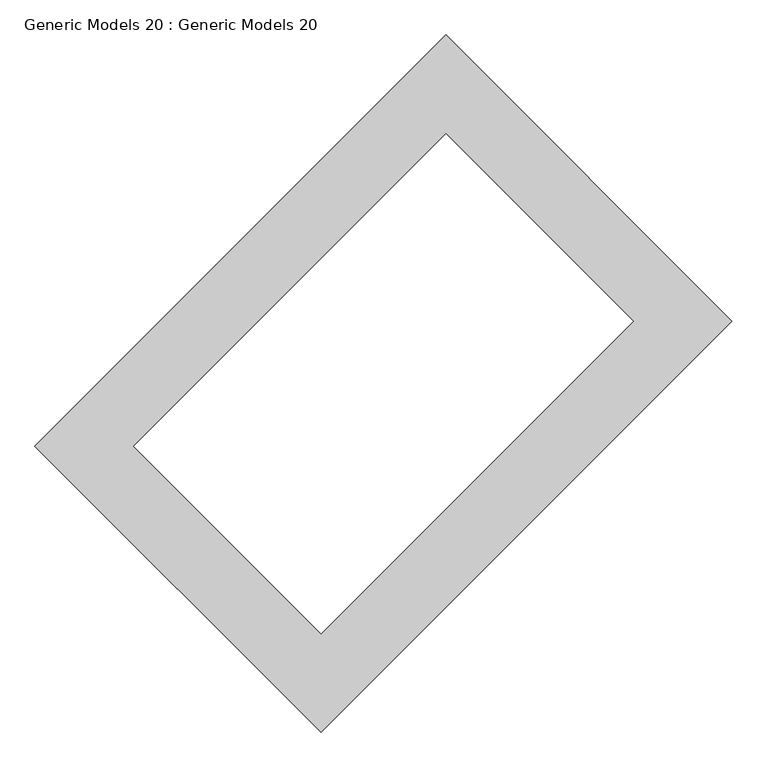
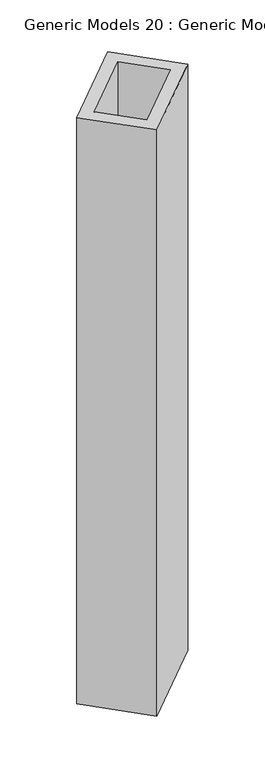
"""IFC4 building model written with IfcOpenShell, lengths in millimetres: proxy geometry, Generic Models 20 : Generic Models 20."""

from ifc_helpers import new_model, si_unit, origin, origin_with_axes, place, context, project, spatial, polyline, outline, extrude, source, transform, mapped, element, save


def generic_models_20_generic_models_20_f7844d34(model_context):
    return source(origin(), model_context, "Body", "SweptSolid", [
        extrude(outline(polyline([(9899.1734102, 1923.0090245), (11076.9908695, 3100.8264838), (11897.2347357, 2280.5826176), (10719.4172764, 1102.7651583), (9899.1734102, 1923.0090245)]), holes=[polyline([(10182.0161227, 1923.0090245), (10719.4172764, 1385.6078708), (11614.3920232, 2280.5826176), (11076.9908695, 2817.9837713), (10182.0161227, 1923.0090245)])]), origin_with_axes(), (0.0, 0.0, 1.0), 10022.4063931),
    ])


if __name__ == "__main__":
    model = new_model("IFC4")
    model_context = context("Model", 3, world=origin())
    ifc_project = project(units=[si_unit("LENGTHUNIT", "METRE", prefix="MILLI")], contexts=[model_context])
    site = spatial("IfcSite", under=ifc_project)
    building = spatial("IfcBuilding", under=site)
    placement = place(None, origin())
    generic_models_20_generic_models_20_shape = generic_models_20_generic_models_20_f7844d34(model_context)
    element("IfcBuildingElementProxy", 1, Name="Generic Models 20 : Generic Models 20", ObjectType="Generic Models 20 : Generic Models 20", at=placement, inside=building, context=model_context, shape_type="MappedRepresentation", body=[
        mapped(generic_models_20_generic_models_20_shape, transform((0.0, 0.0, 0.0), x_axis=(1.0, 0.0, 0.0), y_axis=(0.0, 1.0, 0.0), z_axis=(0.0, 0.0, 1.0))),
    ])
    save(model, "model.ifc")
